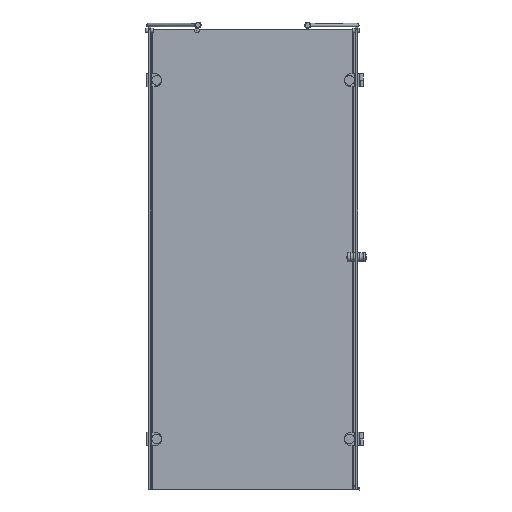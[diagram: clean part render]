
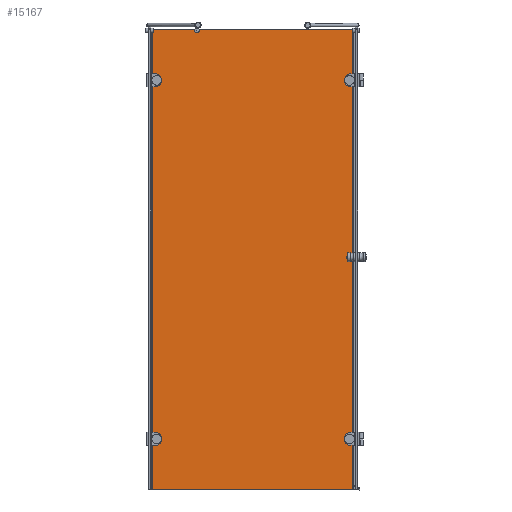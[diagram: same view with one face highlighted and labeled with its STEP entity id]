
A CAD part, left-side view. The second image highlights one B-rep face of the part: STEP entity #15167.
In plain terms, the highlighted planar face has unit normal (-1, 0, 0).
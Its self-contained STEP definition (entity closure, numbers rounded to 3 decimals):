
#598=LINE($,#23308,#2024);
#623=LINE($,#23400,#2049);
#1073=LINE($,#25696,#2499);
#1079=LINE($,#25712,#2505);
#1080=LINE($,#25713,#2506);
#1081=LINE($,#25714,#2507);
#2024=VECTOR($,#18461,633.308);
#2049=VECTOR($,#18532,174.784);
#2499=VECTOR($,#19774,1900.);
#2505=VECTOR($,#19796,824.953);
#2506=VECTOR($,#19797,0.019);
#2507=VECTOR($,#19798,1898.279);
#3402=FACE_BOUND($,#4922,.T.);
#3403=FACE_BOUND($,#4923,.T.);
#3404=FACE_BOUND($,#4924,.T.);
#4922=EDGE_LOOP($,(#11789));
#4923=EDGE_LOOP($,(#11790));
#4924=EDGE_LOOP($,(#11791,#11792,#11793,#11794,#11795,#11796,#11797,#11798));
#5292=CIRCLE($,#15659,4.);
#5310=CIRCLE($,#15699,4.);
#5445=CIRCLE($,#15988,10.);
#5607=CIRCLE($,#16334,2.);
#5949=VERTEX_POINT($,#21648);
#5979=VERTEX_POINT($,#21738);
#6280=VERTEX_POINT($,#22921);
#6282=VERTEX_POINT($,#22925);
#6317=VERTEX_POINT($,#23307);
#6361=VERTEX_POINT($,#23398);
#6735=VERTEX_POINT($,#25245);
#6736=VERTEX_POINT($,#25256);
#6806=VERTEX_POINT($,#25695);
#6808=VERTEX_POINT($,#25711);
#7371=EDGE_CURVE($,#5949,#5949,#5292,.T.);
#7409=EDGE_CURVE($,#5979,#5979,#5310,.T.);
#7824=EDGE_CURVE($,#6280,#6282,#5445,.T.);
#7864=EDGE_CURVE($,#6280,#6317,#598,.T.);
#7911=EDGE_CURVE($,#6361,#6282,#623,.T.);
#8443=EDGE_CURVE($,#6736,#6735,#5607,.T.);
#8578=EDGE_CURVE($,#6361,#6806,#1073,.T.);
#8585=EDGE_CURVE($,#6806,#6808,#1079,.T.);
#8586=EDGE_CURVE($,#6808,#6736,#1080,.T.);
#8587=EDGE_CURVE($,#6317,#6735,#1081,.T.);
#11789=ORIENTED_EDGE($,*,*,#7371,.T.);
#11790=ORIENTED_EDGE($,*,*,#7409,.T.);
#11791=ORIENTED_EDGE($,*,*,#7824,.T.);
#11792=ORIENTED_EDGE($,*,*,#7911,.F.);
#11793=ORIENTED_EDGE($,*,*,#8578,.T.);
#11794=ORIENTED_EDGE($,*,*,#8585,.T.);
#11795=ORIENTED_EDGE($,*,*,#8586,.T.);
#11796=ORIENTED_EDGE($,*,*,#8443,.T.);
#11797=ORIENTED_EDGE($,*,*,#8587,.F.);
#11798=ORIENTED_EDGE($,*,*,#7864,.F.);
#13556=PLANE($,#16443);
#15167=ADVANCED_FACE($,(#3402,#3403,#3404),#13556,.T.);
#15659=AXIS2_PLACEMENT_3D($,#21649,#17440,#17441);
#15699=AXIS2_PLACEMENT_3D($,#21739,#17540,#17541);
#15988=AXIS2_PLACEMENT_3D($,#22927,#18386,#18387);
#16334=AXIS2_PLACEMENT_3D($,#25257,#19492,#19493);
#16443=AXIS2_PLACEMENT_3D($,#25710,#19794,#19795);
#17440=DIRECTION('center_axis',(1.,0.,0.));
#17441=DIRECTION('ref_axis',(0.,-1.,0.));
#17540=DIRECTION('center_axis',(1.,0.,0.));
#17541=DIRECTION('ref_axis',(0.,-1.,0.));
#18386=DIRECTION('center_axis',(1.,0.,0.));
#18387=DIRECTION('ref_axis',(0.,-0.947,-0.322));
#18461=DIRECTION($,(0.,-1.,0.));
#18532=DIRECTION($,(0.,-1.,0.));
#19492=DIRECTION('center_axis',(1.,0.,0.));
#19493=DIRECTION('ref_axis',(0.,0.707,0.707));
#19774=DIRECTION($,(0.,0.,-1.));
#19794=DIRECTION('center_axis',(-1.,0.,0.));
#19795=DIRECTION('ref_axis',(0.,-1.,0.));
#19796=DIRECTION($,(0.,-1.,0.));
#19797=DIRECTION($,(0.,-1.,0.));
#19798=DIRECTION($,(0.,0.,-1.));
#21648=CARTESIAN_POINT('',(1774.,647.956,-304.056));
#21649=CARTESIAN_POINT('Origin',(1774.,643.956,-304.056));
#21738=CARTESIAN_POINT('',(1774.,647.956,1175.944));
#21739=CARTESIAN_POINT('Origin',(1774.,643.956,1175.944));
#22921=CARTESIAN_POINT('',(1774.,468.864,1385.944));
#22925=CARTESIAN_POINT('',(1774.,486.725,1385.944));
#22927=CARTESIAN_POINT('Origin',(1774.,477.795,1381.444));
#23307=CARTESIAN_POINT('',(1774.,-164.444,1385.944));
#23308=CARTESIAN_POINT($,(1774.,678.956,1385.944));
#23398=CARTESIAN_POINT('',(1774.,661.509,1385.944));
#23400=CARTESIAN_POINT($,(1774.,678.956,1385.944));
#25245=CARTESIAN_POINT('',(1774.,-164.444,-512.335));
#25256=CARTESIAN_POINT('',(1774.,-163.463,-514.056));
#25257=CARTESIAN_POINT('Origin',(1774.,-165.463,-514.056));
#25695=CARTESIAN_POINT('',(1774.,661.509,-514.056));
#25696=CARTESIAN_POINT($,(1774.,661.509,1385.944));
#25710=CARTESIAN_POINT('Origin',(1774.,678.956,-514.056));
#25711=CARTESIAN_POINT('',(1774.,-163.444,-514.056));
#25712=CARTESIAN_POINT($,(1774.,678.956,-514.056));
#25713=CARTESIAN_POINT($,(1774.,678.956,-514.056));
#25714=CARTESIAN_POINT($,(1774.,-164.444,1385.944));
